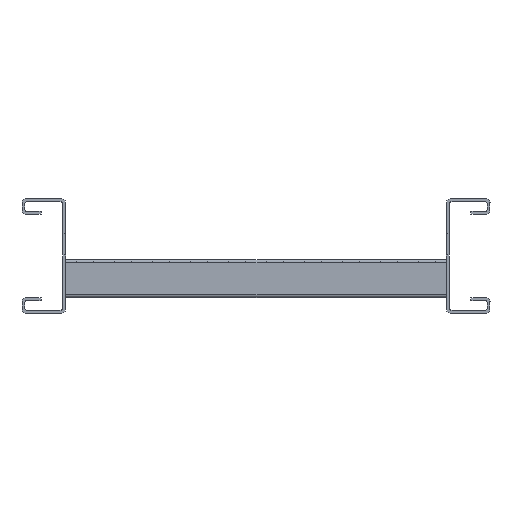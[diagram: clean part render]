
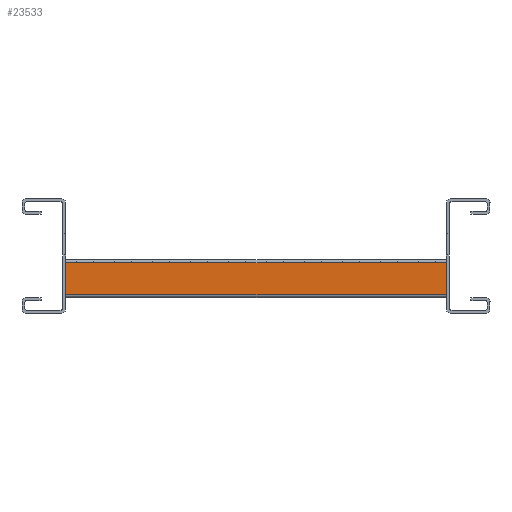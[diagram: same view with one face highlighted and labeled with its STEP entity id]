
A CAD part, left-side view. The second image highlights one B-rep face of the part: STEP entity #23533.
In plain terms, the highlighted planar face has unit normal (-1, 0, 0) as drawn and (0, 1, 0) by its records, which use the part's own axes.
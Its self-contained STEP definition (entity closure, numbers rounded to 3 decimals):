
#1719=FACE_OUTER_BOUND('',#3297,.T.);
#3297=EDGE_LOOP('',(#21290,#21291,#21292,#21293));
#6447=LINE('',#36384,#9567);
#6453=LINE('',#36401,#9573);
#6514=LINE('',#36606,#9634);
#6515=LINE('',#36608,#9635);
#9567=VECTOR('',#29926,304.8);
#9573=VECTOR('',#29938,304.8);
#9634=VECTOR('',#30107,304.8);
#9635=VECTOR('',#30110,304.8);
#11722=VERTEX_POINT('',#36381);
#11723=VERTEX_POINT('',#36383);
#11730=VERTEX_POINT('',#36398);
#11731=VERTEX_POINT('',#36400);
#14882=EDGE_CURVE('',#11722,#11723,#6447,.T.);
#14890=EDGE_CURVE('',#11730,#11731,#6453,.T.);
#14994=EDGE_CURVE('',#11731,#11722,#6514,.T.);
#14995=EDGE_CURVE('',#11730,#11723,#6515,.T.);
#21290=ORIENTED_EDGE('',*,*,#14882,.F.);
#21291=ORIENTED_EDGE('',*,*,#14994,.F.);
#21292=ORIENTED_EDGE('',*,*,#14890,.F.);
#21293=ORIENTED_EDGE('',*,*,#14995,.T.);
#22476=PLANE('',#24714);
#23533=ADVANCED_FACE('',(#1719),#22476,.T.);
#24714=AXIS2_PLACEMENT_3D('',#36607,#30108,#30109);
#29926=DIRECTION('',(0.,0.,-1.));
#29938=DIRECTION('',(0.,0.,1.));
#30107=DIRECTION('',(-1.,0.,0.));
#30108=DIRECTION('center_axis',(0.,1.,0.));
#30109=DIRECTION('ref_axis',(1.,0.,0.));
#30110=DIRECTION('',(-1.,0.,0.));
#36381=CARTESIAN_POINT('',(0.,20.,8.5));
#36383=CARTESIAN_POINT('',(0.,20.,-8.5));
#36384=CARTESIAN_POINT('',(0.,20.,8.5));
#36398=CARTESIAN_POINT('',(200.,20.,-8.5));
#36400=CARTESIAN_POINT('',(200.,20.,8.5));
#36401=CARTESIAN_POINT('',(200.,20.,-8.5));
#36606=CARTESIAN_POINT('',(0.,20.,8.5));
#36607=CARTESIAN_POINT('Origin',(0.,20.,8.5));
#36608=CARTESIAN_POINT('',(0.,20.,-8.5));
